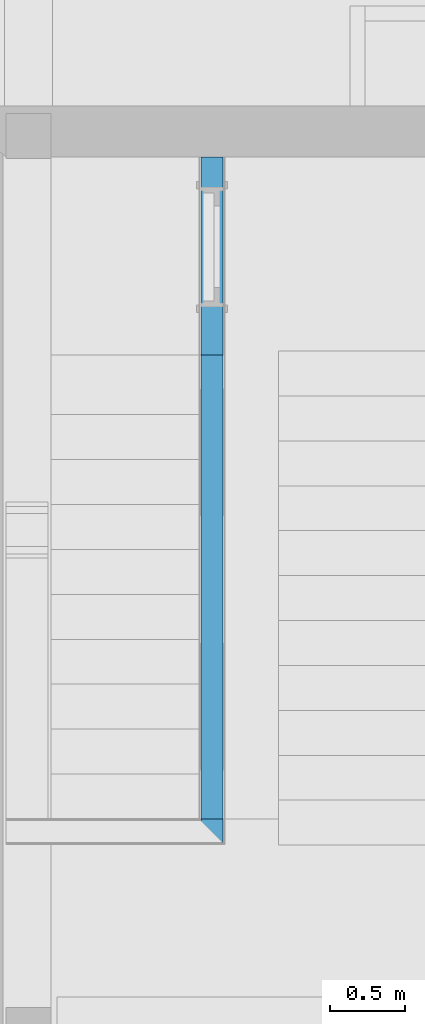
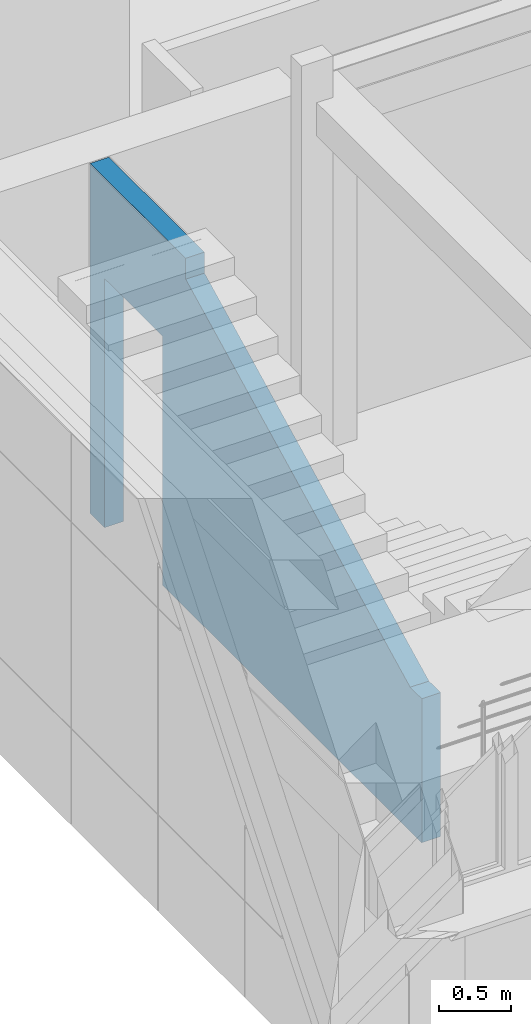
# One storey, part 110 of 418: 1 building element part, 1 opening, 1 element without a shape of its own.
"""IFC2X3 building model written with IfcOpenShell, lengths in millimetres."""

from ifc_helpers import new_model, entity, si_unit, converted_unit, derived_unit, money_unit, direction, frame, origin_with_axes, origin_2d_with_axis, place, context, subcontext, project, spatial, polyline, rectangle, outline, extrude, boolean, faceted_brep, material, type_object, element, aggregate, save


model = new_model("IFC2X3")

# Units and contexts
model_context = context("Model", 3, precision=0.01, world=origin_with_axes(), true_north=direction((0.0, 1.0)))
body_context = subcontext(model_context, "Body", "Model", "MODEL_VIEW")
ifc_project = project(units=[si_unit("LENGTHUNIT", "METRE", prefix="MILLI"), si_unit("AREAUNIT", "SQUARE_METRE"), si_unit("VOLUMEUNIT", "CUBIC_METRE"), converted_unit("PLANEANGLEUNIT", "DEGREE", entity("IfcPlaneAngleMeasure", 0.0174532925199), si_unit("PLANEANGLEUNIT", "RADIAN"), dimensions=[0, 0, 0, 0, 0, 0, 0]), si_unit("SOLIDANGLEUNIT", "STERADIAN"), money_unit("EUR"), converted_unit("TIMEUNIT", "Year", entity("IfcTimeMeasure", 31556926.0), si_unit("TIMEUNIT", "SECOND"), dimensions=[0, 0, 1, 0, 0, 0, 0]), si_unit("MASSUNIT", "GRAM", prefix="KILO"), si_unit("THERMODYNAMICTEMPERATUREUNIT", "DEGREE_CELSIUS"), si_unit("LUMINOUSINTENSITYUNIT", "LUMEN"), si_unit("ENERGYUNIT", "JOULE", prefix="MEGA"), derived_unit("THERMALCONDUCTANCEUNIT", [(si_unit("POWERUNIT", "WATT"), 1), (si_unit("LENGTHUNIT", "METRE"), -1), (si_unit("THERMODYNAMICTEMPERATUREUNIT", "KELVIN"), -1)]), derived_unit("SPECIFICHEATCAPACITYUNIT", [(si_unit("ENERGYUNIT", "JOULE"), 1), (si_unit("MASSUNIT", "GRAM", prefix="KILO"), -1), (si_unit("THERMODYNAMICTEMPERATUREUNIT", "KELVIN"), -1)]), derived_unit("MASSDENSITYUNIT", [(si_unit("MASSUNIT", "GRAM", prefix="KILO"), 1), (si_unit("VOLUMEUNIT", "CUBIC_METRE"), -1)])], contexts=[model_context])

# Site, building, storey
site_placement = place(None, origin_with_axes())
site = spatial("IfcSite", under=ifc_project, at=site_placement, Name="Paldiski mnt 245/1, Tallinn, Harjumaa", CompositionType="COMPLEX")
building_placement = place(site_placement, origin_with_axes())
building = spatial("IfcBuilding", under=site, at=building_placement, Name="RKAS Hoone üldnimetus (kasutust iseloomustav) -> IFC Project Manager -> SOLIBRI", CompositionType="ELEMENT")
storey_placement = place(building_placement, origin_with_axes())
storey = spatial("IfcBuildingStorey", under=building, at=storey_placement, Name="Esimene korrus", CompositionType="ELEMENT", Elevation=0.0)

# Wall, opening, building element part
wall_type = type_object("IfcWallType", Name="SS-04 170", PredefinedType="NOTDEFINED")
wall_placement = place(storey_placement, frame((-46130.0, -6130.08408706, 0.0), z_axis=(0.0, 0.0, 1.0), x_axis=(0.0, -1.0, 0.0)))
wall = element("IfcWall", 1, at=wall_placement, inside=storey, type_object=wall_type, Name="SS-04")
opening_placement = place(wall_placement, frame((940.0, 0.0, 0.0), z_axis=(0.0, 0.0, 1.0), x_axis=(1.0, 0.0, 0.0)))
element("IfcOpeningElement", 2, at=opening_placement, cuts=wall, Name="TSU-08v", context=body_context, shape_type="SweptSolid", body=[
    extrude(rectangle(XDim=800.0, YDim=2100.0, at=origin_2d_with_axis()), frame((0.0, -145.0, 1050.0), z_axis=(0.0, 1.0, 0.0), x_axis=(-1.0, 0.0, 0.0)), (0.0, 0.0, 1.0), 315.0),
    extrude(rectangle(XDim=800.0, YDim=2100.0, at=origin_2d_with_axis()), frame((0.0, -145.0, 1050.0), z_axis=(0.0, -1.0, 0.0), x_axis=(-1.0, 0.0, 0.0)), (0.0, 0.0, 1.0), 195.0),
    extrude(rectangle(XDim=874.0, YDim=2137.0, at=origin_2d_with_axis()), frame((0.0, 0.0, 1068.5), z_axis=(0.0, 1.0, 0.0), x_axis=(-1.0, 0.0, 0.0)), (0.0, 0.0, 1.0), 195.0),
    extrude(rectangle(XDim=874.0, YDim=2137.0, at=origin_2d_with_axis()), frame((0.0, -170.0, 1068.5), z_axis=(0.0, -1.0, 0.0), x_axis=(-1.0, 0.0, 0.0)), (0.0, 0.0, 1.0), 195.0),
])
ifc_material = material(Name="FIBO 5")
building_element_part_placement = place(wall_placement, origin_with_axes())
building_element_part = element("IfcBuildingElementPart", 3, at=building_element_part_placement, material=ifc_material, Name="FIBO 5", context=body_context, shape_type="CSG", body=[
    boolean("DIFFERENCE", boolean("DIFFERENCE", boolean("DIFFERENCE", boolean("DIFFERENCE", boolean("DIFFERENCE", boolean("DIFFERENCE", extrude(outline(polyline([(0.0, -160.0), (4930.41676623, -160.0), (4930.41676623, -10.0), (0.0, -10.0), (0.0, -160.0)])), origin_with_axes(), (0.0, 0.0, 1.0), 2950.0), faceted_brep([(1835.41676623, 0.0, 2685.9945005), (1660.416771, 0.0, 2774.02480113), (1660.416771, 0.0, 2950.0), (4930.41676623, 0.0, 2950.0), (4930.41676623, -8.31200708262e-06, 1214.63086414), (4760.41676623, 0.0, 1214.63086414), (4685.41676623, 0.0, 1252.35813686), (4660.41676623, 0.0, 1264.93389444), (4610.41676623, 0.0, 1290.08540959), (4560.41676623, 0.0, 1315.23692474), (4535.41676623, 0.0, 1327.81268232), (4460.41676623, 0.0, 1365.53995505), (4385.41676623, 0.0, 1403.26722777), (4360.41676623, 0.0, 1415.84298535), (4310.41676623, 0.0, 1440.9945005), (4260.41676623, 0.0, 1466.14601565), (4235.41676623, 0.0, 1478.72177323), (4160.41676623, 0.0, 1516.44904596), (4060.41676623, 0.0, 1566.75207626), (3960.41676623, 0.0, 1617.05510656), (3860.41676623, 0.0, 1667.35813686), (3785.41676623, 0.0, 1705.08540959), (3710.41676623, 0.0, 1742.81268232), (3635.41676623, 0.0, 1780.53995505), (3560.41676623, 0.0, 1818.26722777), (3485.41676623, 0.0, 1855.9945005), (3460.41676623, 0.0, 1868.57025808), (3410.41676623, 0.0, 1893.72177323), (3360.41676623, 0.0, 1918.87328838), (3335.41676623, 0.0, 1931.44904596), (3260.41676623, 0.0, 1969.17631868), (3160.41676623, 0.0, 2019.47934899), (3060.41676623, 0.0, 2069.78237929), (2960.41676623, 0.0, 2120.08540959), (2885.41676623, 0.0, 2157.81268232), (2810.41676623, 0.0, 2195.53995505), (2735.41676623, 0.0, 2233.26722777), (2660.41676623, 0.0, 2270.9945005), (2585.41676623, 0.0, 2308.72177323), (2560.41676623, 0.0, 2321.2975308), (2510.41676623, 0.0, 2346.44904596), (2460.41676623, 0.0, 2371.60056111), (2435.41676623, 0.0, 2384.17631868), (2360.41676623, 0.0, 2421.90359141), (2260.41676623, 0.0, 2472.20662171), (2160.41676623, 0.0, 2522.50965202), (2060.41676623, 0.0, 2572.81268232), (1985.41676623, 0.0, 2610.53995505), (1910.41676623, 0.0, 2648.26722777), (1835.41676623, -10.0, 2685.9945005), (1660.416771, -10.0, 2774.02480113), (1660.416771, -10.00000327, 2950.0), (4930.41676623, -10.0, 2950.0), (4930.41676359, -10.0000038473, 1214.63086414), (4760.41676623, -10.0000093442, 1214.63086414), (4685.41676623, -10.0, 1252.35813686), (4660.41676623, -10.0, 1264.93389444), (4610.41676623, -10.0, 1290.08540959), (4560.41676623, -10.0, 1315.23692474), (4535.41676623, -10.0, 1327.81268232), (4460.41676623, -10.0, 1365.53995505), (4385.41676623, -10.0, 1403.26722777), (4360.41676623, -10.0, 1415.84298535), (4310.41676623, -10.0, 1440.9945005), (4260.41676623, -10.0, 1466.14601565), (4235.41676623, -10.0, 1478.72177323), (4160.41676623, -10.0, 1516.44904596), (4060.41676623, -10.0, 1566.75207626), (3960.41676623, -10.0, 1617.05510656), (3860.41676623, -10.0, 1667.35813686), (3785.41676623, -10.0, 1705.08540959), (3710.41676623, -10.0, 1742.81268232), (3635.41676623, -10.0, 1780.53995505), (3560.41676623, -10.0, 1818.26722777), (3485.41676623, -10.0, 1855.9945005), (3460.41676623, -10.0, 1868.57025808), (3410.41676623, -10.0, 1893.72177323), (3360.41676623, -10.0, 1918.87328838), (3335.41676623, -10.0, 1931.44904596), (3260.41676623, -10.0, 1969.17631868), (3160.41676623, -10.0, 2019.47934899), (3060.41676623, -10.0, 2069.78237929), (2960.41676623, -10.0, 2120.08540959), (2885.41676623, -10.0, 2157.81268232), (2810.41676623, -10.0, 2195.53995505), (2735.41676623, -10.0, 2233.26722777), (2660.41676623, -10.0, 2270.9945005), (2585.41676623, -10.0, 2308.72177323), (2560.41676623, -10.0, 2321.2975308), (2510.41676623, -10.0, 2346.44904596), (2460.41676623, -10.0, 2371.60056111), (2435.41676623, -10.0, 2384.17631868), (2360.41676623, -10.0, 2421.90359141), (2260.41676623, -10.0, 2472.20662171), (2160.41676623, -10.0, 2522.50965202), (2060.41676623, -10.0, 2572.81268232), (1985.41676623, -10.0, 2610.53995505), (1910.41676623, -10.0, 2648.26722777)], [[[0, 1, 2, 3, 4, 5, 6, 7, 8, 9, 10, 11, 12, 13, 14, 15, 16, 17, 18, 19, 20, 21, 22, 23, 24, 25, 26, 27, 28, 29, 30, 31, 32, 33, 34, 35, 36, 37, 38, 39, 40, 41, 42, 43, 44, 45, 46, 47, 48]], [[1, 0, 49, 50]], [[51, 2, 1, 50]], [[2, 51, 52, 3]], [[53, 4, 3, 52]], [[5, 4, 53, 54]], [[6, 5, 54, 55]], [[7, 6, 55, 56]], [[8, 7, 56, 57]], [[9, 8, 57, 58]], [[10, 9, 58, 59]], [[11, 10, 59, 60]], [[12, 11, 60, 61]], [[13, 12, 61, 62]], [[14, 13, 62, 63]], [[15, 14, 63, 64]], [[16, 15, 64, 65]], [[17, 16, 65, 66]], [[18, 17, 66, 67]], [[19, 18, 67, 68]], [[20, 19, 68, 69]], [[21, 20, 69, 70]], [[22, 21, 70, 71]], [[23, 22, 71, 72]], [[24, 23, 72, 73]], [[25, 24, 73, 74]], [[26, 25, 74, 75]], [[27, 26, 75, 76]], [[28, 27, 76, 77]], [[29, 28, 77, 78]], [[30, 29, 78, 79]], [[31, 30, 79, 80]], [[32, 31, 80, 81]], [[33, 32, 81, 82]], [[34, 33, 82, 83]], [[35, 34, 83, 84]], [[36, 35, 84, 85]], [[37, 36, 85, 86]], [[38, 37, 86, 87]], [[39, 38, 87, 88]], [[40, 39, 88, 89]], [[41, 40, 89, 90]], [[42, 41, 90, 91]], [[43, 42, 91, 92]], [[44, 43, 92, 93]], [[45, 44, 93, 94]], [[46, 45, 94, 95]], [[47, 46, 95, 96]], [[48, 47, 96, 97]], [[0, 48, 97, 49]], [[53, 52, 51, 50, 49, 97, 96, 95, 94, 93, 92, 91, 90, 89, 88, 87, 86, 85, 84, 83, 82, 81, 80, 79, 78, 77, 76, 75, 74, 73, 72, 71, 70, 69, 68, 67, 66, 65, 64, 63, 62, 61, 60, 59, 58, 57, 56, 55, 54]]])), faceted_brep([(340.0, -10.0000008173, 2950.0), (340.0, -7.27034432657e-07, 2950.0), (0.0, 0.0, 2950.0), (0.0, -10.0, 2950.0), (340.0, 0.0, 0.0), (340.0, -9.99999999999, 0.0), (0.0, 0.0, 0.0), (0.0, -10.0, 0.0)], [[[0, 1, 2, 3]], [[4, 1, 0, 5]], [[1, 4, 6, 2]], [[2, 6, 7, 3]], [[5, 0, 3, 7]], [[4, 5, 7, 6]]])), faceted_brep([(1835.41676623, -10.0, 2685.9945005), (1660.416771, -10.0, 2774.02480113), (1660.416771, -10.00000327, 2950.0), (4930.41676623, -10.0, 2950.0), (4930.41676623, -10.0, 0.0), (4920.41676623, -9.99999999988, 0.0), (4920.41676623, -10.0000093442, 1214.63086414), (4760.41676623, -10.0000093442, 1214.63086414), (4685.41676623, -10.0, 1252.35813686), (4660.41676623, -10.0, 1264.93389444), (4610.41676623, -10.0, 1290.08540959), (4560.41676623, -10.0, 1315.23692474), (4535.41676623, -10.0, 1327.81268232), (4460.41676623, -10.0, 1365.53995505), (4385.41676623, -10.0, 1403.26722777), (4360.41676623, -10.0, 1415.84298535), (4310.41676623, -10.0, 1440.9945005), (4260.41676623, -10.0, 1466.14601565), (4235.41676623, -10.0, 1478.72177323), (4160.41676623, -10.0, 1516.44904596), (4060.41676623, -10.0, 1566.75207626), (3960.41676623, -10.0, 1617.05510656), (3860.41676623, -10.0, 1667.35813686), (3785.41676623, -10.0, 1705.08540959), (3710.41676623, -10.0, 1742.81268232), (3635.41676623, -10.0, 1780.53995505), (3560.41676623, -10.0, 1818.26722777), (3485.41676623, -10.0, 1855.9945005), (3460.41676623, -10.0, 1868.57025808), (3410.41676623, -10.0, 1893.72177323), (3360.41676623, -10.0, 1918.87328838), (3335.41676623, -10.0, 1931.44904596), (3260.41676623, -10.0, 1969.17631868), (3160.41676623, -10.0, 2019.47934899), (3060.41676623, -10.0, 2069.78237929), (2960.41676623, -10.0, 2120.08540959), (2885.41676623, -10.0, 2157.81268232), (2810.41676623, -10.0, 2195.53995505), (2735.41676623, -10.0, 2233.26722777), (2660.41676623, -10.0, 2270.9945005), (2585.41676623, -10.0, 2308.72177323), (2560.41676623, -10.0, 2321.2975308), (2510.41676623, -10.0, 2346.44904596), (2460.41676623, -10.0, 2371.60056111), (2435.41676623, -10.0, 2384.17631868), (2360.41676623, -10.0, 2421.90359141), (2260.41676623, -10.0, 2472.20662171), (2160.41676623, -10.0, 2522.50965202), (2060.41676623, -10.0, 2572.81268232), (1985.41676623, -10.0, 2610.53995505), (1910.41676623, -10.0, 2648.26722777), (1835.41676623, -160.0, 2685.9945005), (1660.416771, -160.0, 2774.02480113), (1660.416771, -159.999999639, 2950.0), (4930.41676623, -160.0, 2950.0), (4930.41676623, -160.0, 0.0), (4920.41676623, -160.0, 0.0), (4920.41676623, -159.999998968, 1214.63086414), (4760.41676623, -159.999998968, 1214.63086414), (4685.41676623, -160.0, 1252.35813686), (4660.41676623, -160.0, 1264.93389444), (4610.41676623, -160.0, 1290.08540959), (4560.41676623, -160.0, 1315.23692474), (4535.41676623, -160.0, 1327.81268232), (4460.41676623, -160.0, 1365.53995505), (4385.41676623, -160.0, 1403.26722777), (4360.41676623, -160.0, 1415.84298535), (4310.41676623, -160.0, 1440.9945005), (4260.41676623, -160.0, 1466.14601565), (4235.41676623, -160.0, 1478.72177323), (4160.41676623, -160.0, 1516.44904596), (4060.41676623, -160.0, 1566.75207626), (3960.41676623, -160.0, 1617.05510656), (3860.41676623, -160.0, 1667.35813686), (3785.41676623, -160.0, 1705.08540959), (3710.41676623, -160.0, 1742.81268232), (3635.41676623, -160.0, 1780.53995505), (3560.41676623, -160.0, 1818.26722777), (3485.41676623, -160.0, 1855.9945005), (3460.41676623, -160.0, 1868.57025808), (3410.41676623, -160.0, 1893.72177323), (3360.41676623, -160.0, 1918.87328838), (3335.41676623, -160.0, 1931.44904596), (3260.41676623, -160.0, 1969.17631868), (3160.41676623, -160.0, 2019.47934899), (3060.41676623, -160.0, 2069.78237929), (2960.41676623, -160.0, 2120.08540959), (2885.41676623, -160.0, 2157.81268232), (2810.41676623, -160.0, 2195.53995505), (2735.41676623, -160.0, 2233.26722777), (2660.41676623, -160.0, 2270.9945005), (2585.41676623, -160.0, 2308.72177323), (2560.41676623, -160.0, 2321.2975308), (2510.41676623, -160.0, 2346.44904596), (2460.41676623, -160.0, 2371.60056111), (2435.41676623, -160.0, 2384.17631868), (2360.41676623, -160.0, 2421.90359141), (2260.41676623, -160.0, 2472.20662171), (2160.41676623, -160.0, 2522.50965202), (2060.41676623, -160.0, 2572.81268232), (1985.41676623, -160.0, 2610.53995505), (1910.41676623, -160.0, 2648.26722777)], [[[0, 1, 2, 3, 4, 5, 6, 7, 8, 9, 10, 11, 12, 13, 14, 15, 16, 17, 18, 19, 20, 21, 22, 23, 24, 25, 26, 27, 28, 29, 30, 31, 32, 33, 34, 35, 36, 37, 38, 39, 40, 41, 42, 43, 44, 45, 46, 47, 48, 49, 50]], [[1, 0, 51, 52]], [[53, 2, 1, 52]], [[2, 53, 54, 3]], [[54, 55, 4, 3]], [[56, 5, 4, 55]], [[6, 5, 56, 57]], [[57, 58, 7, 6]], [[8, 7, 58, 59]], [[9, 8, 59, 60]], [[10, 9, 60, 61]], [[11, 10, 61, 62]], [[12, 11, 62, 63]], [[13, 12, 63, 64]], [[14, 13, 64, 65]], [[15, 14, 65, 66]], [[16, 15, 66, 67]], [[17, 16, 67, 68]], [[18, 17, 68, 69]], [[19, 18, 69, 70]], [[20, 19, 70, 71]], [[21, 20, 71, 72]], [[22, 21, 72, 73]], [[23, 22, 73, 74]], [[24, 23, 74, 75]], [[25, 24, 75, 76]], [[26, 25, 76, 77]], [[27, 26, 77, 78]], [[28, 27, 78, 79]], [[29, 28, 79, 80]], [[30, 29, 80, 81]], [[31, 30, 81, 82]], [[32, 31, 82, 83]], [[33, 32, 83, 84]], [[34, 33, 84, 85]], [[35, 34, 85, 86]], [[36, 35, 86, 87]], [[37, 36, 87, 88]], [[38, 37, 88, 89]], [[39, 38, 89, 90]], [[40, 39, 90, 91]], [[41, 40, 91, 92]], [[42, 41, 92, 93]], [[43, 42, 93, 94]], [[44, 43, 94, 95]], [[45, 44, 95, 96]], [[46, 45, 96, 97]], [[47, 46, 97, 98]], [[48, 47, 98, 99]], [[49, 48, 99, 100]], [[50, 49, 100, 101]], [[0, 50, 101, 51]], [[57, 56, 55, 54, 53, 52, 51, 101, 100, 99, 98, 97, 96, 95, 94, 93, 92, 91, 90, 89, 88, 87, 86, 85, 84, 83, 82, 81, 80, 79, 78, 77, 76, 75, 74, 73, 72, 71, 70, 69, 68, 67, 66, 65, 64, 63, 62, 61, 60, 59, 58]]])), faceted_brep([(340.0, -159.99999991, 2950.0), (340.0, -10.0000008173, 2950.0), (0.0, -10.0, 2950.0), (0.0, -160.0, 2950.0), (340.0, -160.0, 0.0), (340.0, -9.99999999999, 0.0), (0.0, -10.0, 0.0), (0.0, -160.0, 0.0)], [[[0, 1, 2, 3]], [[1, 0, 4, 5]], [[1, 5, 6, 2]], [[2, 6, 7, 3]], [[4, 0, 3, 7]], [[5, 4, 7, 6]]])), faceted_brep([(1835.41676623, -160.0, 2685.9945005), (1660.416771, -160.0, 2774.02480113), (1660.416771, -159.999999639, 2950.0), (4930.41676623, -160.0, 2950.0), (4930.41676623, -160.0, 0.0), (4770.41676623, -160.0, 0.0), (4770.41676623, -159.999998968, 1214.63086414), (4760.41676623, -159.999998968, 1214.63086414), (4685.41676623, -160.0, 1252.35813686), (4660.41676623, -160.0, 1264.93389444), (4610.41676623, -160.0, 1290.08540959), (4560.41676623, -160.0, 1315.23692474), (4535.41676623, -160.0, 1327.81268232), (4460.41676623, -160.0, 1365.53995505), (4385.41676623, -160.0, 1403.26722777), (4360.41676623, -160.0, 1415.84298535), (4310.41676623, -160.0, 1440.9945005), (4260.41676623, -160.0, 1466.14601565), (4235.41676623, -160.0, 1478.72177323), (4160.41676623, -160.0, 1516.44904596), (4060.41676623, -160.0, 1566.75207626), (3960.41676623, -160.0, 1617.05510656), (3860.41676623, -160.0, 1667.35813686), (3785.41676623, -160.0, 1705.08540959), (3710.41676623, -160.0, 1742.81268232), (3635.41676623, -160.0, 1780.53995505), (3560.41676623, -160.0, 1818.26722777), (3485.41676623, -160.0, 1855.9945005), (3460.41676623, -160.0, 1868.57025808), (3410.41676623, -160.0, 1893.72177323), (3360.41676623, -160.0, 1918.87328838), (3335.41676623, -160.0, 1931.44904596), (3260.41676623, -160.0, 1969.17631868), (3160.41676623, -160.0, 2019.47934899), (3060.41676623, -160.0, 2069.78237929), (2960.41676623, -160.0, 2120.08540959), (2885.41676623, -160.0, 2157.81268232), (2810.41676623, -160.0, 2195.53995505), (2735.41676623, -160.0, 2233.26722777), (2660.41676623, -160.0, 2270.9945005), (2585.41676623, -160.0, 2308.72177323), (2560.41676623, -160.0, 2321.2975308), (2510.41676623, -160.0, 2346.44904596), (2460.41676623, -160.0, 2371.60056111), (2435.41676623, -160.0, 2384.17631868), (2360.41676623, -160.0, 2421.90359141), (2260.41676623, -160.0, 2472.20662171), (2160.41676623, -160.0, 2522.50965202), (2060.41676623, -160.0, 2572.81268232), (1985.41676623, -160.0, 2610.53995505), (1910.41676623, -160.0, 2648.26722777), (1835.41676623, -170.0, 2685.9945005), (1660.416771, -170.0, 2774.02480113), (1660.416771, -170.0, 2950.0), (4930.41676623, -170.0, 2950.0), (4930.41676623, -170.0, 0.0), (4770.41676623, -170.0, 0.0), (4770.41676623, -170.0, 1214.63086414), (4760.41676623, -170.0, 1214.63086414), (4685.41676623, -170.0, 1252.35813686), (4660.41676623, -170.0, 1264.93389444), (4610.41676623, -170.0, 1290.08540959), (4560.41676623, -170.0, 1315.23692474), (4535.41676623, -170.0, 1327.81268232), (4460.41676623, -170.0, 1365.53995505), (4385.41676623, -170.0, 1403.26722777), (4360.41676623, -170.0, 1415.84298535), (4310.41676623, -170.0, 1440.9945005), (4260.41676623, -170.0, 1466.14601565), (4235.41676623, -170.0, 1478.72177323), (4160.41676623, -170.0, 1516.44904596), (4060.41676623, -170.0, 1566.75207626), (3960.41676623, -170.0, 1617.05510656), (3860.41676623, -170.0, 1667.35813686), (3785.41676623, -170.0, 1705.08540959), (3710.41676623, -170.0, 1742.81268232), (3635.41676623, -170.0, 1780.53995505), (3560.41676623, -170.0, 1818.26722777), (3485.41676623, -170.0, 1855.9945005), (3460.41676623, -170.0, 1868.57025808), (3410.41676623, -170.0, 1893.72177323), (3360.41676623, -170.0, 1918.87328838), (3335.41676623, -170.0, 1931.44904596), (3260.41676623, -170.0, 1969.17631868), (3160.41676623, -170.0, 2019.47934899), (3060.41676623, -170.0, 2069.78237929), (2960.41676623, -170.0, 2120.08540959), (2885.41676623, -170.0, 2157.81268232), (2810.41676623, -170.0, 2195.53995505), (2735.41676623, -170.0, 2233.26722777), (2660.41676623, -170.0, 2270.9945005), (2585.41676623, -170.0, 2308.72177323), (2560.41676623, -170.0, 2321.2975308), (2510.41676623, -170.0, 2346.44904596), (2460.41676623, -170.0, 2371.60056111), (2435.41676623, -170.0, 2384.17631868), (2360.41676623, -170.0, 2421.90359141), (2260.41676623, -170.0, 2472.20662171), (2160.41676623, -170.0, 2522.50965202), (2060.41676623, -170.0, 2572.81268232), (1985.41676623, -170.0, 2610.53995505), (1910.41676623, -170.0, 2648.26722777)], [[[0, 1, 2, 3, 4, 5, 6, 7, 8, 9, 10, 11, 12, 13, 14, 15, 16, 17, 18, 19, 20, 21, 22, 23, 24, 25, 26, 27, 28, 29, 30, 31, 32, 33, 34, 35, 36, 37, 38, 39, 40, 41, 42, 43, 44, 45, 46, 47, 48, 49, 50]], [[1, 0, 51, 52]], [[53, 2, 1, 52]], [[2, 53, 54, 3]], [[54, 55, 4, 3]], [[56, 5, 4, 55]], [[6, 5, 56, 57]], [[57, 58, 7, 6]], [[8, 7, 58, 59]], [[9, 8, 59, 60]], [[10, 9, 60, 61]], [[11, 10, 61, 62]], [[12, 11, 62, 63]], [[13, 12, 63, 64]], [[14, 13, 64, 65]], [[15, 14, 65, 66]], [[16, 15, 66, 67]], [[17, 16, 67, 68]], [[18, 17, 68, 69]], [[19, 18, 69, 70]], [[20, 19, 70, 71]], [[21, 20, 71, 72]], [[22, 21, 72, 73]], [[23, 22, 73, 74]], [[24, 23, 74, 75]], [[25, 24, 75, 76]], [[26, 25, 76, 77]], [[27, 26, 77, 78]], [[28, 27, 78, 79]], [[29, 28, 79, 80]], [[30, 29, 80, 81]], [[31, 30, 81, 82]], [[32, 31, 82, 83]], [[33, 32, 83, 84]], [[34, 33, 84, 85]], [[35, 34, 85, 86]], [[36, 35, 86, 87]], [[37, 36, 87, 88]], [[38, 37, 88, 89]], [[39, 38, 89, 90]], [[40, 39, 90, 91]], [[41, 40, 91, 92]], [[42, 41, 92, 93]], [[43, 42, 93, 94]], [[44, 43, 94, 95]], [[45, 44, 95, 96]], [[46, 45, 96, 97]], [[47, 46, 97, 98]], [[48, 47, 98, 99]], [[49, 48, 99, 100]], [[50, 49, 100, 101]], [[0, 50, 101, 51]], [[57, 56, 55, 54, 53, 52, 51, 101, 100, 99, 98, 97, 96, 95, 94, 93, 92, 91, 90, 89, 88, 87, 86, 85, 84, 83, 82, 81, 80, 79, 78, 77, 76, 75, 74, 73, 72, 71, 70, 69, 68, 67, 66, 65, 64, 63, 62, 61, 60, 59, 58]]])), faceted_brep([(340.0, -170.0, 2950.0), (340.0, -159.99999991, 2950.0), (0.0, -160.0, 2950.0), (0.0, -170.0, 2950.0), (340.0, -170.0, 0.0), (340.0, -160.0, 0.0), (0.0, -160.0, 0.0), (0.0, -170.0, 0.0)], [[[0, 1, 2, 3]], [[1, 0, 4, 5]], [[1, 5, 6, 2]], [[2, 6, 7, 3]], [[4, 0, 3, 7]], [[5, 4, 7, 6]]])),
])
aggregate(wall, [building_element_part])

save(model, "model.ifc")
